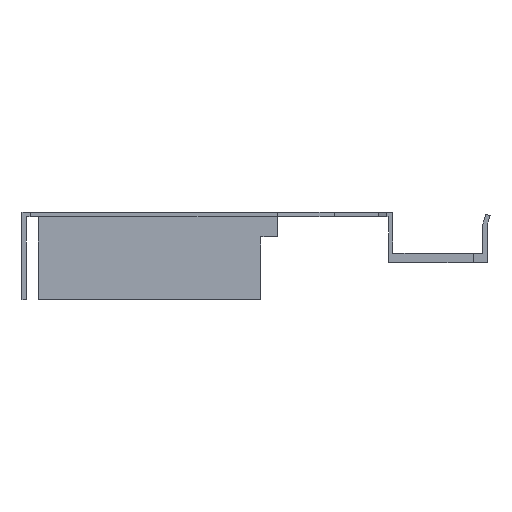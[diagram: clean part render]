
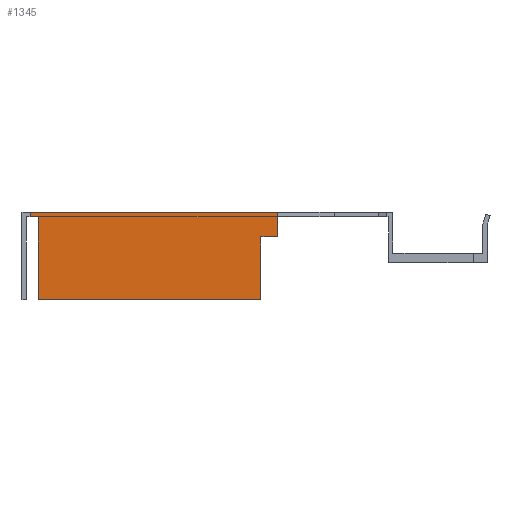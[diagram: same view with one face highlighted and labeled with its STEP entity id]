
A CAD part, left-side view. The second image highlights one B-rep face of the part: STEP entity #1345.
In plain terms, the highlighted planar face has unit normal (-1, 0, 0).
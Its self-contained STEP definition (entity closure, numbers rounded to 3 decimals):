
#29 = LINE ( 'NONE', #687, #30 ) ;
#30 = VECTOR ( 'NONE', #688, 1000. ) ;
#83 = LINE ( 'NONE', #766, #100 ) ;
#100 = VECTOR ( 'NONE', #779, 1000. ) ;
#177 = VERTEX_POINT ( 'NONE', #247 ) ;
#185 = VERTEX_POINT ( 'NONE', #255 ) ;
#194 = VERTEX_POINT ( 'NONE', #264 ) ;
#207 = VERTEX_POINT ( 'NONE', #277 ) ;
#217 = VERTEX_POINT ( 'NONE', #287 ) ;
#218 = VERTEX_POINT ( 'NONE', #288 ) ;
#219 = VERTEX_POINT ( 'NONE', #289 ) ;
#220 = VERTEX_POINT ( 'NONE', #290 ) ;
#247 = CARTESIAN_POINT ( 'NONE',  ( -815., 66.5, 7.5 ) ) ;
#255 = CARTESIAN_POINT ( 'NONE',  ( -815., 21.2, 7.5 ) ) ;
#264 = CARTESIAN_POINT ( 'NONE',  ( -815., 66.5, 6.7 ) ) ;
#277 = CARTESIAN_POINT ( 'NONE',  ( -815., 65., 6.7 ) ) ;
#287 = CARTESIAN_POINT ( 'NONE',  ( -815., 65., -8.5 ) ) ;
#288 = CARTESIAN_POINT ( 'NONE',  ( -815., 24.2, -8.5 ) ) ;
#289 = CARTESIAN_POINT ( 'NONE',  ( -815., 24.2, 3. ) ) ;
#290 = CARTESIAN_POINT ( 'NONE',  ( -815., 21.2, 3. ) ) ;
#379 = CARTESIAN_POINT ( 'NONE',  ( -815., 24.2, -8.5 ) ) ;
#380 = DIRECTION ( 'NONE',  ( 0., 0., 1. ) ) ;
#408 = CARTESIAN_POINT ( 'NONE',  ( -815., 65., -8.5 ) ) ;
#409 = DIRECTION ( 'NONE',  ( 0., -1., 0. ) ) ;
#412 = CARTESIAN_POINT ( 'NONE',  ( -815., 21.2, 0. ) ) ;
#416 = CARTESIAN_POINT ( 'NONE',  ( -815., 66.5, 6.7 ) ) ;
#417 = DIRECTION ( 'NONE',  ( 0., 0., 1. ) ) ;
#419 = DIRECTION ( 'NONE',  ( 0., 0., -1. ) ) ;
#422 = CARTESIAN_POINT ( 'NONE',  ( -815., 65., 7.5 ) ) ;
#423 = DIRECTION ( 'NONE',  ( 0., 0., -1. ) ) ;
#426 = CARTESIAN_POINT ( 'NONE',  ( -815., 24.2, 3. ) ) ;
#427 = DIRECTION ( 'NONE',  ( 0., -1., 0. ) ) ;
#523 = PLANE ( 'NONE',  #955 ) ;
#526 = CARTESIAN_POINT ( 'NONE',  ( -815., -16.5, 0. ) ) ;
#532 = DIRECTION ( 'NONE',  ( -1., 0., 0. ) ) ;
#533 = DIRECTION ( 'NONE',  ( 0., 0., 1. ) ) ;
#687 = CARTESIAN_POINT ( 'NONE',  ( -815., 0.8, 6.7 ) ) ;
#688 = DIRECTION ( 'NONE',  ( 0., 1., 0. ) ) ;
#766 = CARTESIAN_POINT ( 'NONE',  ( -815., 0., 7.5 ) ) ;
#779 = DIRECTION ( 'NONE',  ( 0., -1., 0. ) ) ;
#883 = EDGE_CURVE ( 'NONE', #218, #219, #1190, .T. ) ;
#897 = EDGE_CURVE ( 'NONE', #217, #218, #1217, .T. ) ;
#901 = EDGE_CURVE ( 'NONE', #194, #177, #1225, .T. ) ;
#902 = EDGE_CURVE ( 'NONE', #185, #220, #1208, .T. ) ;
#904 = EDGE_CURVE ( 'NONE', #207, #217, #1231, .T. ) ;
#906 = EDGE_CURVE ( 'NONE', #219, #220, #1235, .T. ) ;
#955 = AXIS2_PLACEMENT_3D ( 'NONE', #526, #532, #533 ) ;
#1014 = EDGE_LOOP ( 'NONE', ( #1575, #1464, #1521, #1526, #1578, #1584, #1523, #1563 ) ) ;
#1190 = LINE ( 'NONE', #379, #1191 ) ;
#1191 = VECTOR ( 'NONE', #380, 1000. ) ;
#1208 = LINE ( 'NONE', #412, #1227 ) ;
#1217 = LINE ( 'NONE', #408, #1218 ) ;
#1218 = VECTOR ( 'NONE', #409, 1000. ) ;
#1225 = LINE ( 'NONE', #416, #1226 ) ;
#1226 = VECTOR ( 'NONE', #417, 1000. ) ;
#1227 = VECTOR ( 'NONE', #419, 1000. ) ;
#1231 = LINE ( 'NONE', #422, #1232 ) ;
#1232 = VECTOR ( 'NONE', #423, 1000. ) ;
#1235 = LINE ( 'NONE', #426, #1236 ) ;
#1236 = VECTOR ( 'NONE', #427, 1000. ) ;
#1309 = FACE_OUTER_BOUND ( 'NONE', #1014, .T. ) ;
#1345 = ADVANCED_FACE ( 'NONE', ( #1309 ), #523, .T. ) ;
#1390 = EDGE_CURVE ( 'NONE', #207, #194, #29, .T. ) ;
#1464 = ORIENTED_EDGE ( 'NONE', *, *, #1390, .F. ) ;
#1521 = ORIENTED_EDGE ( 'NONE', *, *, #904, .T. ) ;
#1523 = ORIENTED_EDGE ( 'NONE', *, *, #902, .F. ) ;
#1526 = ORIENTED_EDGE ( 'NONE', *, *, #897, .T. ) ;
#1563 = ORIENTED_EDGE ( 'NONE', *, *, #1651, .F. ) ;
#1575 = ORIENTED_EDGE ( 'NONE', *, *, #901, .F. ) ;
#1578 = ORIENTED_EDGE ( 'NONE', *, *, #883, .T. ) ;
#1584 = ORIENTED_EDGE ( 'NONE', *, *, #906, .T. ) ;
#1651 = EDGE_CURVE ( 'NONE', #177, #185, #83, .T. ) ;
